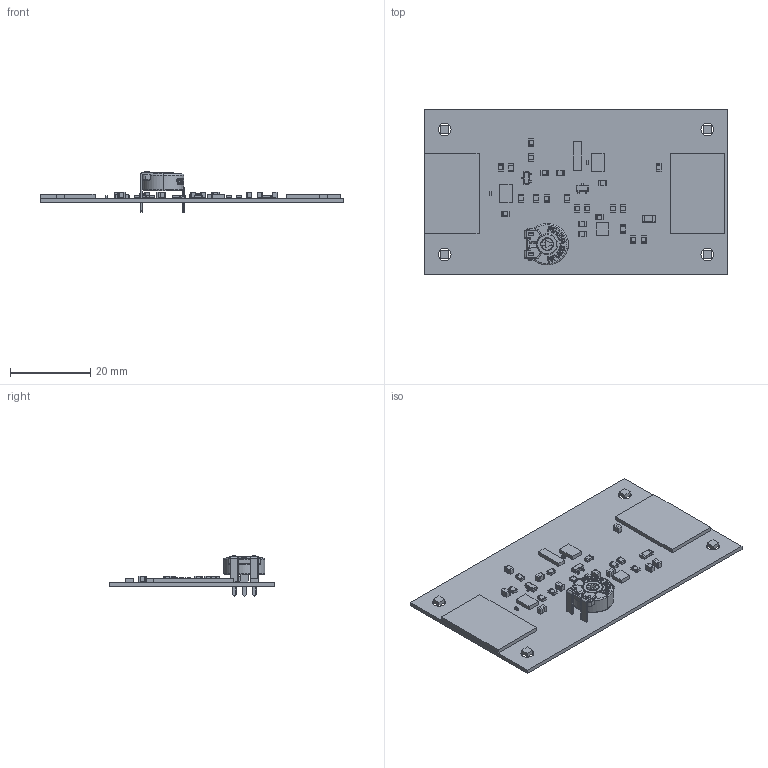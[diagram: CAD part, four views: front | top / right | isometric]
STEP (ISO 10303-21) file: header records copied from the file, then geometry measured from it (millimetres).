
FILE_DESCRIPTION(('Component Model'),'2;1');
FILE_NAME( 'C:/3D/sessions/PPP6175b60aca12b/3d/Component/step_file.step', '2021-10-24T21:38:53',('Author'),(''), 'Open CASCADE STEP processor 6.8','Component','Unknown');
FILE_SCHEMA(('AUTOMOTIVE_DESIGN_CC2 { 1 2 10303 214 -1 1 5 4 }'));
Length unit declared in the file: millimetre
Products named in the file (145): ASSEMBLY; CAPC1005X061; CAPC1005X062; CAPC1005X60; Component_1; CAPC2012X145; CAPC2012X146; CAPC2012X147; CAPC2012X148; CAPC2012X149; CAPC2012X150; CAPC2012X151; CAPC2012X152; CAPC2012X153; CAPC2012X154; CAPC2012X155; CAPC2012X156; CAPC2012X157; CAPC2012X158; CAPC2012X159; CAPC1005X063; CAPC1005X064; CAPC1005X065; Component_002; CAPC2012X160; CAPC2012X161; CAPC2012X162; CAPC2012X163; CAPC2012X164; CAPC2012X165; CAPC2012X166; CAPC2012X167; CAPC2012X168; CAPC2012X169; CAPC2012X170; CAPC2012X171; CAPC2012X172; CAPC2012X173; CAPC2012X174; CAPC2012X175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
Assembly tree (144 placements, depth 2):
  ASSEMBLY
    CAPC1005X061
    CAPC1005X062
    CAPC1005X60
    Component_1
    CAPC2012X145
    CAPC2012X146
    CAPC2012X147
    CAPC2012X148
    CAPC2012X149
    CAPC2012X150
    CAPC2012X151
    CAPC2012X152
    CAPC2012X153
    CAPC2012X154
    CAPC2012X155
    CAPC2012X156
    CAPC2012X157
    CAPC2012X158
    CAPC2012X159
    CAPC1005X063
    CAPC1005X064
    CAPC1005X065
    Component_002
    CAPC2012X160
    CAPC2012X161
    CAPC2012X162
    CAPC2012X163
    CAPC2012X164
    CAPC2012X165
    CAPC2012X166
    CAPC2012X167
    CAPC2012X168
    CAPC2012X169
    CAPC2012X170
    CAPC2012X171
    CAPC2012X172
    CAPC2012X173
    CAPC2012X174
    CAPC2012X175
    CAPC2012X176
    CAPC2012X177
    Component_2
    Component_003
    Component_004
    Component_005
    Fusion
    Fusion001
    RESC3216X078
    RESC3216X079
    RESC3216X077
    RESC3216X080
    RESC3216X76
    Component_3
    RESC2012X072
    RESC2012X073
    RESC2012X071
    RESC2012X074
    RESC2012X70
    RESC2012X075
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Bounding box: 75.56 x 41.27 x 10.1 mm (x, y, z)
Volume: 4134.2 mm3; surface area: 9251 mm2
Topology: 142 solids, 144 shells, 1867 faces, 4294 edges, 2591 vertices
Faces by surface type: plane 868, bspline 523, cylinder 372, sphere 104
Full cylindrical faces by diameter (mm): 3.2 x4
Entity records: 146897 total; most frequent: CARTESIAN_POINT 60859, DIRECTION 10596, ORIENTED_EDGE 8339, PCURVE 8339, DEFINITIONAL_REPRESENTATION 8339, LINE 6026, VECTOR 6026, B_SPLINE_CURVE_WITH_KNOTS 5096
